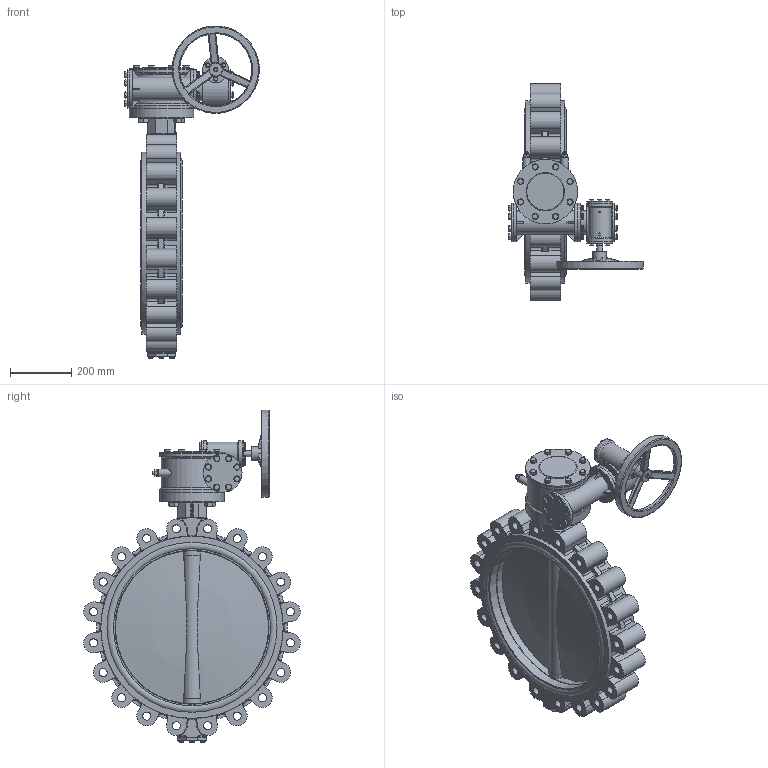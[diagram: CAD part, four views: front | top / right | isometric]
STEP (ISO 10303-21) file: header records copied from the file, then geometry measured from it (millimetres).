
FILE_DESCRIPTION(('STEP AP242'), '1');
FILE_NAME('Ïîâîðîòíûé çàòâîð ïîä ýëåêòðîïðèâîä', '', ('UNSPECIFIED'), ('UNSPECIFIED'), 'C3D Converter', 'C3D Toolkit', '');
FILE_SCHEMA(('AP242_MANAGED_MODEL_BASED_3D_ENGINEERING_MIM_LF { 1 0 10303 442 1 1 4 }'));
Length unit declared in the file: millimetre
Products named in the file (29): П; ШМ.М12.30
Assembly tree (130 placements, depth 3):
  (unnamed)
    (unnamed)
    П  x2
    (unnamed)
    (unnamed)
    (unnamed)
    (unnamed)
    (unnamed)  x4
    (unnamed)
      (unnamed)
      (unnamed)
      (unnamed)  x2
      (unnamed)
      (unnamed)
      (unnamed)
      (unnamed)
      (unnamed)
      (unnamed)  x2
      (unnamed)  x2
      (unnamed)  x32
      (unnamed)  x16
      (unnamed)  x8
      (unnamed)  x8
      ШМ.М12.30  x8
      (unnamed)  x12
      (unnamed)  x12
      (unnamed)
    (unnamed)  x4
    (unnamed)  x4
Bounding box: 438.66 x 705.99 x 1082.16 mm (x, y, z)
Volume: 32369070.6 mm3; surface area: 3331491 mm2
Topology: 129 solids, 129 shells, 2198 faces, 4956 edges, 3143 vertices
Faces by surface type: plane 1043, cylinder 583, torus 186, cone 171, extrusion 159, bspline 52, sphere 4
Full cylindrical faces by diameter (mm): 6 x2, 8 x40, 8.4 x12, 10 x12, 10.647 x10, 12 x100, 12.564 x1, 13 x32, 15 x12, 16 x8, 20 x40, 21 x4, 22 x8, 24 x2, 26.211 x20, 34 x4, 45 x1, 46 x5, 50.6 x1, 60.325 x4, 65.054 x5, 76 x2, 84 x4, 121 x1, 126 x6, 200 x1, 210 x4, 235 x1, 245 x1, 275 x1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
Entity records: 59862 total; most frequent: CARTESIAN_POINT 23765, DIRECTION 6053, ORIENTED_EDGE 5956, EDGE_CURVE 2978, AXIS2_PLACEMENT_3D 2349, VERTEX_POINT 2058, EDGE_LOOP 1852, FACE_BOUND 1389
